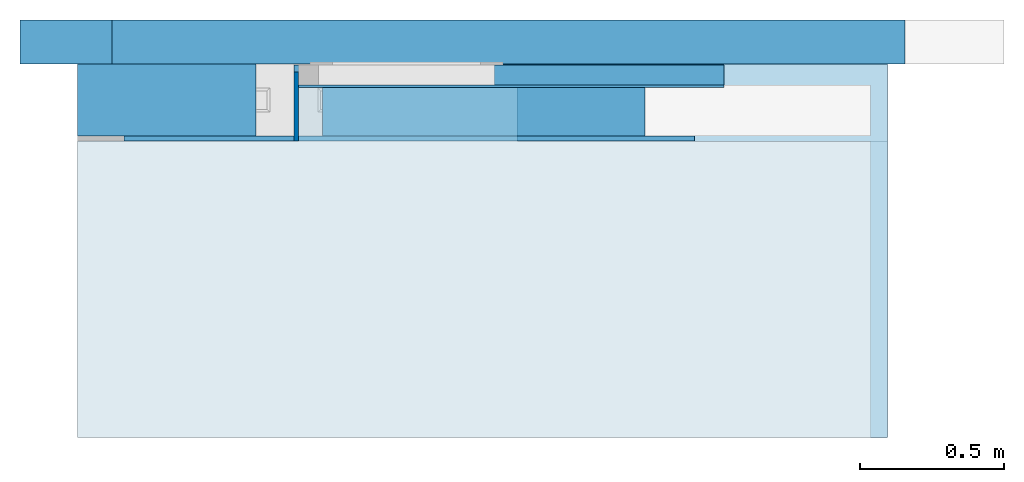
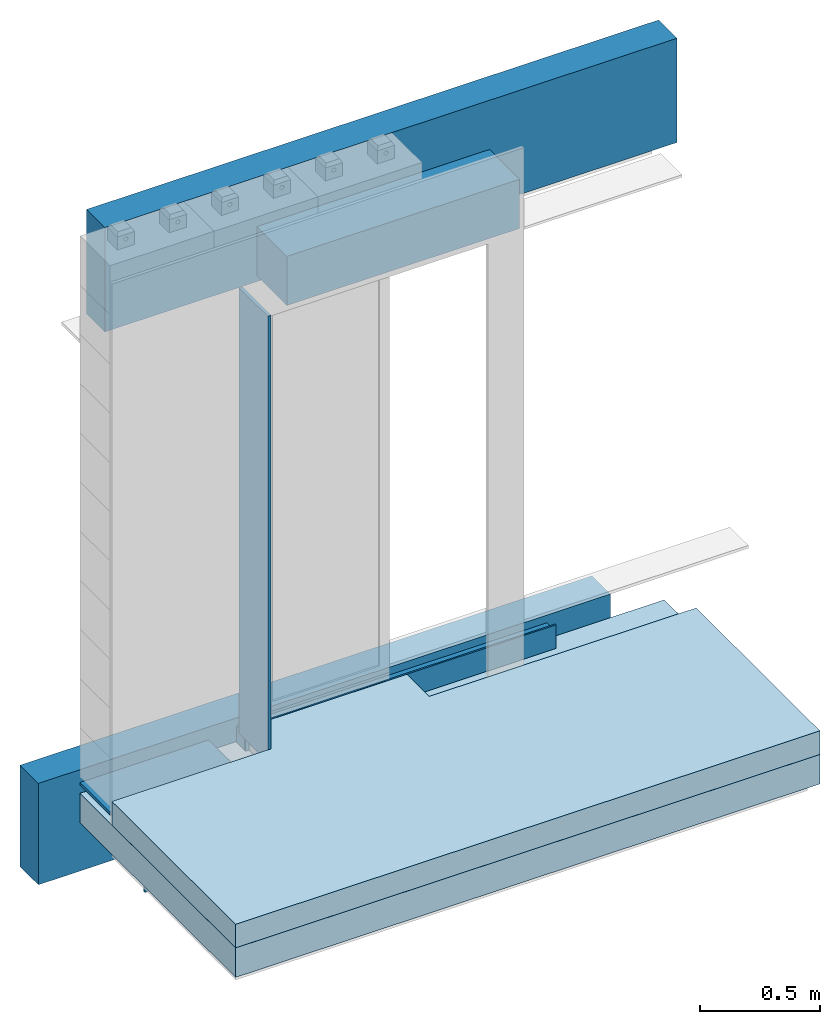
# One storey, part 1 of 3: 6 walls, 2 beams, 2 slabs.
"""IFC4 building model written with IfcOpenShell, lengths in centimetres."""

from ifc_helpers import new_model, entity, si_unit, converted_unit, direction, frame, origin, place, context, subcontext, project, spatial, indexed_curve, outline, extrude, source, transform, mapped, material, constituent, constituent_set, type_object, type_shapes, element, save


model = new_model("IFC4")

# Units and contexts
model_context = context("Model", 3, precision=0.001, world=origin(), true_north=direction((0.0, 1.0)))
body_context = subcontext(model_context, "Body", "Model", "MODEL_VIEW")
ifc_project = project(units=[si_unit("LENGTHUNIT", "METRE", prefix="CENTI"), si_unit("AREAUNIT", "SQUARE_METRE"), si_unit("VOLUMEUNIT", "CUBIC_METRE"), converted_unit("PLANEANGLEUNIT", "DEGREE", entity("IfcPlaneAngleMeasure", 0.017453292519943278), si_unit("PLANEANGLEUNIT", "RADIAN"), dimensions=[0, 0, 0, 0, 0, 0, 0])], contexts=[model_context])

# Site, building, storey
site_placement = place(None, origin())
site = spatial("IfcSite", under=ifc_project, at=site_placement, Name="Default", CompositionType="ELEMENT")
building_placement = place(site_placement, origin())
building = spatial("IfcBuilding", under=site, at=building_placement, CompositionType="ELEMENT")
storey_placement = place(building_placement, frame((0.0, 0.0, -12.0)))
storey = spatial("IfcBuildingStorey", under=building, at=storey_placement, Name="L00__ABOVE Slab", CompositionType="ELEMENT", Elevation=-12.000000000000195)

# Beams
ifc_material_1 = material(Name="_STRUCTURE__Wood")
beam_type_1 = type_object("IfcBeamType", Name="Structural Framing : sfr__WOOD__Rectangular__sf : 15 x 1cm", PredefinedType="BEAM", material=ifc_material_1)
shared_shape_1 = source(origin(), body_context, "Body", "SweptSolid", [
    extrude(outline(indexed_curve([(-30.949999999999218, -12.500000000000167), (30.949999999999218, -12.500000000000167), (30.949999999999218, 12.500000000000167), (-30.949999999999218, 12.500000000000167), (-30.949999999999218, -12.500000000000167)], self_intersect=False)), frame((-6.550000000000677, 0.0, -0.7500000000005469), z_axis=(0.0, 0.0, 1.0), x_axis=(-1.0, 0.0, 0.0)), (0.0, 0.0, 1.0), 1.4999999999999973),
])
type_shapes(beam_type_1, [shared_shape_1])
beam_1_placement = place(storey_placement, frame((2793.149456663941, 823.749139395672, 9.25), z_axis=(0.0, 0.0, 1.0), x_axis=(-1.0, 0.0, 0.0)))
element("IfcBeam", 1, at=beam_1_placement, inside=storey, type_object=beam_type_1, material=ifc_material_1, Name="Structural Framing : sfr__WOOD__Rectangular__sf : 15 x 1cm", PredefinedType="BEAM", context=body_context, shape_type="MappedRepresentation", body=[
    mapped(shared_shape_1, transform((0.0, 0.0, 0.0), scale=1.0)),
])
ifc_material_2 = material(Name="_MASONRY__Timber Block__Triqbriq, Filler", Category="Miscellaneous")
beam_type_2 = type_object("IfcBeamType", Name="Structural Framing : sfr__WOOD__Rectangular__sf : 15 x 25cm", PredefinedType="BEAM", material=ifc_material_2)
shared_shape_2 = source(origin(), body_context, "Body", "SweptSolid", [
    extrude(outline(indexed_curve([(-55.949999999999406, -12.500000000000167), (55.949999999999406, -12.500000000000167), (55.949999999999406, 12.500000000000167), (-55.949999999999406, 12.500000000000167), (-55.949999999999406, -12.500000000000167)], self_intersect=False)), frame((19.050000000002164, 0.0, -12.500000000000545), z_axis=(0.0, 0.0, 1.0), x_axis=(-1.0, 0.0, 0.0)), (0.0, 0.0, 1.0), 24.999999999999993),
])
type_shapes(beam_type_2, [shared_shape_2])
beam_2_placement = place(storey_placement, frame((2890.6494566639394, 823.7491393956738, 250.30000000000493)))
element("IfcBeam", 2, at=beam_2_placement, inside=storey, type_object=beam_type_2, material=ifc_material_2, Name="Structural Framing : sfr__WOOD__Rectangular__sf : 15 x 25cm", PredefinedType="BEAM", context=body_context, shape_type="MappedRepresentation", body=[
    mapped(shared_shape_2, transform((0.0, 0.0, 0.0), scale=1.0)),
])

# Slabs
slab_type_1 = type_object("IfcSlabType", Name="Floors : Floor : flr__STRUCTURE__Wood Beams 15cm__TriqBriq", PredefinedType="FLOOR", material=ifc_material_1)
slab_1_placement = place(storey_placement, origin())
element("IfcSlab", 3, at=slab_1_placement, inside=storey, type_object=slab_type_1, material=ifc_material_1, Name="Floors : Floor : flr__STRUCTURE__Wood Beams 15cm__TriqBriq", PredefinedType="FLOOR", context=body_context, shape_type="SweptSolid", body=[
    extrude(outline(indexed_curve([(-64.80000000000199, -140.44999999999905), (64.80000000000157, -140.44999999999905), (64.80000000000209, 140.4499999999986), (-64.80000000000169, 140.44999999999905), (-64.80000000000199, -140.44999999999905)], self_intersect=False)), frame((2909.199456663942, 771.4491393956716, 4.500000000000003), z_axis=(0.0, 0.0, -1.0), x_axis=(0.0, 1.0, 0.0)), (0.0, 0.0, 1.0), 15.0),
])
ifc_material_3 = material(Name="_FINISH STAIR__Int__Parquet Flooring__Stairs", Category="Unassigned")
ifc_constituent_1 = constituent(ifc_material_3, Name="_FINISH STAIR__Int__Parquet Flooring__Stairs", Category="Unassigned", fraction=0.08333333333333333)
ifc_material_4 = material(Name="_FLR LAYERS__Screed, SL 0.5%__Semi-dry CEM, Rc ≥ 22.5 N/mm²", Category="Concrete")
ifc_constituent_2 = constituent(ifc_material_4, Name="_FLR LAYERS__Screed, SL 0.5%__Semi-dry CEM, Rc ≥ 22.5 N/mm²", Category="Concrete", fraction=0.2916666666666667)
ifc_material_5 = material(Name="_FLR COVERING__Polished Concrete", Category="Concrete")
ifc_constituent_3 = constituent(ifc_material_5, Name="_FLR COVERING__Polished Concrete", Category="Concrete", fraction=0.5833333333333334)
ifc_material_6 = material(Name="_FCD VENT LAYERS__Support Board__OSB 3", Category="Ceramic")
ifc_constituent_4 = constituent(ifc_material_6, Name="_FCD VENT LAYERS__Support Board__OSB 3", Category="Ceramic", fraction=0.041666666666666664)
ifc_constituent_set_1 = constituent_set(constituents=[ifc_constituent_1, ifc_constituent_2, ifc_constituent_3, ifc_constituent_4], Name="Floor:flr__INT COVERING__Parquet")
slab_type_2 = type_object("IfcSlabType", Name="Floors : Floor : flr__INT COVERING__Parquet", PredefinedType="FLOOR", material=ifc_constituent_set_1)
slab_2_placement = place(storey_placement, origin())
element("IfcSlab", 4, at=slab_2_placement, inside=storey, type_object=slab_type_2, material=ifc_constituent_set_1, Name="Floors : Floor : flr__INT COVERING__Parquet", PredefinedType="FLOOR", context=body_context, shape_type="SweptSolid", body=[
    extrude(outline(indexed_curve([(21.112548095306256, -25.07500000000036), (39.662355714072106, -25.07500000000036), (39.662355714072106, 50.924999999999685), (21.11254809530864, 50.924999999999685), (21.11254809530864, 127.52499999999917), (-81.88745190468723, 127.52499999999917), (-81.88745190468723, -153.37499999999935), (21.112548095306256, -153.37499999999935), (21.112548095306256, -25.07500000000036)], self_intersect=False)), frame((2896.2744566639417, 788.5365913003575, 15.500000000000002), z_axis=(0.0, 0.0, 1.0), x_axis=(0.0, 1.0, 0.0)), (0.0, 0.0, 1.0), 1.0000000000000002),
    extrude(outline(indexed_curve([(21.112548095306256, -25.07500000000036), (39.662355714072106, -25.07500000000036), (39.662355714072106, 50.924999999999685), (21.11254809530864, 50.924999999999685), (21.11254809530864, 127.52499999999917), (-81.88745190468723, 127.52499999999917), (-81.88745190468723, -153.37499999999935), (21.112548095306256, -153.37499999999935), (21.112548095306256, -25.07500000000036)], self_intersect=False)), frame((2896.2744566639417, 788.5365913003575, 12.0), z_axis=(0.0, 0.0, 1.0), x_axis=(0.0, 1.0, 0.0)), (0.0, 0.0, 1.0), 3.4999999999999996),
    extrude(outline(indexed_curve([(21.112548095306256, -25.07500000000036), (39.662355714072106, -25.07500000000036), (39.662355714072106, 50.924999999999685), (21.11254809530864, 50.924999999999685), (21.11254809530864, 127.52499999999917), (-81.88745190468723, 127.52499999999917), (-81.88745190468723, -153.37499999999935), (21.112548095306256, -153.37499999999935), (21.112548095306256, -25.07500000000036)], self_intersect=False)), frame((2896.2744566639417, 788.5365913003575, 5.0), z_axis=(0.0, 0.0, 1.0), x_axis=(0.0, 1.0, 0.0)), (0.0, 0.0, 1.0), 7.0),
    extrude(outline(indexed_curve([(-21.112548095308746, -127.5249999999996), (81.88745190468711, -127.5249999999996), (81.88745190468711, 153.37499999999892), (-21.112548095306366, 153.37499999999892), (-21.112548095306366, 25.07499999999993), (-39.66235571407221, 25.07499999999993), (-39.66235571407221, -50.92500000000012), (-21.112548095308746, -50.92500000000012), (-21.112548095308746, -127.5249999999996)], self_intersect=False)), frame((2896.274456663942, 788.5365913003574, 4.5000000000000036), z_axis=(0.0, 0.0, 1.0), x_axis=(0.0, -1.0, 0.0)), (0.0, 0.0, 1.0), 0.49999999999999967),
])

# Walls
ifc_material_7 = material(Name="_FCD FINISH__Mineral Render__Combed, H L/O__Capatect Kreativeffekt \"Filigrano\"__White", Category="Concrete")
ifc_constituent_5 = constituent(ifc_material_7, Name="_FCD FINISH__Mineral Render__Combed, H L/O__Capatect Kreativeffekt \"Filigrano\"__White", Category="Concrete", fraction=0.0196078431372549)
ifc_material_8 = material(Name="_STRUCTURE__Wood Solid")
ifc_constituent_6 = constituent(ifc_material_8, Name="_STRUCTURE__Wood Solid", fraction=0.06535947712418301)
ifc_material_9 = material(Name="_FCD LAYERS__Insulation__Wood-fiber__Steico", Category="Unassigned")
ifc_constituent_7 = constituent(ifc_material_9, Name="_FCD LAYERS__Insulation__Wood-fiber__Steico", Category="Unassigned", fraction=0.9150326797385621)
ifc_constituent_set_2 = constituent_set(constituents=[ifc_constituent_5, ifc_constituent_6, ifc_constituent_7], Name="Basic Wall:wll__EXT ENCLOSURE__Spritzkork, Wood Insulation 8.4cm__TriqBriq, FS.1")
wall_type_1 = type_object("IfcWallType", Name="Walls : Basic Wall : wll__EXT ENCLOSURE__Spritzkork, Wood Insulation 8.4cm__TriqBriq, FS.1", PredefinedType="STANDARD", material=ifc_constituent_set_2)
wall_1_placement = place(storey_placement, frame((2780.749456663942, 843.8991393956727, 234.80000000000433)))
element("IfcWall", 5, at=wall_1_placement, inside=storey, type_object=wall_type_1, material=ifc_constituent_set_2, Name="Walls : Basic Wall : wll__EXT ENCLOSURE__Spritzkork, Wood Insulation 8.4cm__TriqBriq, FS.1", PredefinedType="NOTDEFINED", context=body_context, shape_type="SweptSolid", body=[
    extrude(outline(indexed_curve([(-0.14999999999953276, -137.50000000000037), (0.15000000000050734, -137.50000000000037), (0.14999999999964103, 137.49999999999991), (-0.15000000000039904, 137.49999999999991), (-0.14999999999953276, -137.50000000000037)], self_intersect=False)), frame((137.50000000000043, 7.5000000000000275, 0.0), z_axis=(0.0, 0.0, 1.0), x_axis=(0.0, -1.0, 0.0)), (0.0, 0.0, 1.0), 53.00000000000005),
    extrude(outline(indexed_curve([(-6.999999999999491, -137.50000000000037), (7.000000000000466, -137.50000000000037), (6.999999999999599, 137.49999999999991), (-7.000000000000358, 137.49999999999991), (-6.999999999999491, -137.50000000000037)], self_intersect=False)), frame((137.49999999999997, -0.6500000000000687, 0.0), z_axis=(0.0, 0.0, 1.0), x_axis=(0.0, 1.0, 0.0)), (0.0, 0.0, 1.0), 53.00000000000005),
    extrude(outline(indexed_curve([(-137.49999999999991, -0.4999999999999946), (137.50000000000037, -0.4999999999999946), (137.50000000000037, 0.4999999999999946), (-137.49999999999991, 0.4999999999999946), (-137.49999999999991, -0.4999999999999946)], self_intersect=False)), frame((137.5, 6.849999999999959, 0.0)), (0.0, 0.0, 1.0), 53.00000000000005),
])
wall_2_placement = place(storey_placement, frame((2748.749456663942, 843.8991393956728, -35.022325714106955)))
element("IfcWall", 6, at=wall_2_placement, inside=storey, type_object=wall_type_1, material=ifc_constituent_set_2, Name="Walls : Basic Wall : wll__EXT ENCLOSURE__Spritzkork, Wood Insulation 8.4cm__TriqBriq, FS.1", PredefinedType="NOTDEFINED", context=body_context, shape_type="SweptSolid", body=[
    extrude(outline(indexed_curve([(-0.14999999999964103, -137.50000000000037), (0.15000000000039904, -137.50000000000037), (0.14999999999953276, 137.49999999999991), (-0.15000000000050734, 137.49999999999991), (-0.14999999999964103, -137.50000000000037)], self_intersect=False)), frame((137.50000000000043, 7.499999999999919, 0.0), z_axis=(0.0, 0.0, 1.0), x_axis=(0.0, -1.0, 0.0)), (0.0, 0.0, 1.0), 51.52232571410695),
    extrude(outline(indexed_curve([(-6.999999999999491, -137.50000000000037), (7.000000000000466, -137.50000000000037), (6.999999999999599, 137.49999999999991), (-7.000000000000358, 137.49999999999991), (-6.999999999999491, -137.50000000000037)], self_intersect=False)), frame((137.49999999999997, -0.6500000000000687, 0.0), z_axis=(0.0, 0.0, 1.0), x_axis=(0.0, 1.0, 0.0)), (0.0, 0.0, 1.0), 51.52232571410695),
    extrude(outline(indexed_curve([(-137.50000000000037, -0.4999999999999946), (137.49999999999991, -0.4999999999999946), (137.49999999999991, 0.4999999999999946), (-137.50000000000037, 0.4999999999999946), (-137.50000000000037, -0.4999999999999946)], self_intersect=False)), frame((137.50000000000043, 6.849999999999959, 0.0)), (0.0, 0.0, 1.0), 51.52232571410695),
])
ifc_material_10 = material(Name="_WLL & CLG FINISHES__Lime - CEM Plaster", Category="Unassigned")
ifc_constituent_8 = constituent(ifc_material_10, Name="_WLL & CLG FINISHES__Lime - CEM Plaster", Category="Unassigned", fraction=0.37499999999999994)
ifc_material_11 = material(Name="_FCD LAYERS__Insulation__EPS 120__Austrotherm EPS A120")
ifc_constituent_9 = constituent(ifc_material_11, Name="_FCD LAYERS__Insulation__EPS 120__Austrotherm EPS A120", fraction=0.625)
ifc_constituent_set_3 = constituent_set(constituents=[ifc_constituent_8, ifc_constituent_9], Name="Basic Wall:wll__INT FINISH__Spritzkork, Lime - CEM Plaster 2.4cm TRIQBRIQ")
wall_type_2 = type_object("IfcWallType", Name="Walls : Basic Wall : wll__INT FINISH__Spritzkork, Lime - CEM Plaster 2.4cm TRIQBRIQ", PredefinedType="STANDARD", material=ifc_constituent_set_3)
wall_3_placement = place(storey_placement, frame((2844.5494566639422, 833.5491393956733, 10.300000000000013), z_axis=(0.0, 0.0, 1.0), x_axis=(0.0, -1.0, 0.0)))
element("IfcWall", 7, at=wall_3_placement, inside=storey, type_object=wall_type_2, material=ifc_constituent_set_3, Name="Walls : Basic Wall : wll__INT FINISH__Spritzkork, Lime - CEM Plaster 2.4cm TRIQBRIQ", PredefinedType="NOTDEFINED", context=body_context, shape_type="SweptSolid", body=[
    extrude(outline(indexed_curve([(-0.4999999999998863, -11.950000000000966), (0.4999999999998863, -11.950000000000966), (0.4999999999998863, 11.95000000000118), (-0.4999999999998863, 11.95000000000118), (-0.4999999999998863, -11.950000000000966)], self_intersect=False)), frame((11.950000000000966, 0.29999999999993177, 0.0), z_axis=(0.0, 0.0, 1.0), x_axis=(0.0, -1.0, 0.0)), (0.0, 0.0, 1.0), 226.5000000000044),
    extrude(outline(indexed_curve([(-0.3000000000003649, -11.950000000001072), (0.29999999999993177, -11.950000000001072), (0.29999999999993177, 11.950000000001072), (-0.3000000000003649, 11.950000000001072), (-0.3000000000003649, -11.950000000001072)], self_intersect=False)), frame((11.950000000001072, -0.4999999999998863, 0.0), z_axis=(0.0, 0.0, 1.0), x_axis=(0.0, 1.0, 0.0)), (0.0, 0.0, 1.0), 226.5000000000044),
])
wall_4_placement = place(storey_placement, frame((2784.7494566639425, 810.4491393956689, -35.50000000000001)))
element("IfcWall", 8, at=wall_4_placement, inside=storey, type_object=wall_type_2, material=ifc_constituent_set_3, Name="Walls : Basic Wall : wll__INT FINISH__Spritzkork, Lime - CEM Plaster 2.4cm TRIQBRIQ", PredefinedType="NOTDEFINED", context=body_context, shape_type="SweptSolid", body=[
    extrude(outline(indexed_curve([(-0.49999999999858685, -99.00000000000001), (0.5000000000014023, -99.00000000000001), (0.49999999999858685, 99.00000000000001), (-0.5000000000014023, 99.00000000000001), (-0.49999999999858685, -99.00000000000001)], self_intersect=False)), frame((99.0, 0.30000000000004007, 0.0), z_axis=(0.0, 0.0, 1.0), x_axis=(0.0, -1.0, 0.0)), (0.0, 0.0, 1.0), 25.000000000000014),
    extrude(outline(indexed_curve([(-0.29999999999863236, -99.00000000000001), (0.30000000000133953, -99.00000000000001), (0.29999999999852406, 99.00000000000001), (-0.30000000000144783, 99.00000000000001), (-0.29999999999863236, -99.00000000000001)], self_intersect=False)), frame((99.0, -0.4999999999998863, 0.0), z_axis=(0.0, 0.0, 1.0), x_axis=(0.0, 1.0, 0.0)), (0.0, 0.0, 1.0), 25.000000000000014),
])
ifc_constituent_10 = constituent(ifc_material_10, Name="_WLL & CLG FINISHES__Lime - CEM Plaster", Category="Unassigned", fraction=1.0)
ifc_constituent_set_4 = constituent_set(constituents=[ifc_constituent_10], Name="Basic Wall:wll__INT FINISH__Lime - CEM Plaster 4cm 3")
wall_type_3 = type_object("IfcWallType", Name="Walls : Basic Wall : wll__INT FINISH__Lime - CEM Plaster 4cm 3", PredefinedType="STANDARD", material=ifc_constituent_set_4)
wall_5_placement = place(storey_placement, frame((2843.7494566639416, 832.4989470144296, 4.500000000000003)))
element("IfcWall", 9, at=wall_5_placement, inside=storey, type_object=wall_type_3, material=ifc_constituent_set_4, Name="Walls : Basic Wall : wll__INT FINISH__Lime - CEM Plaster 4cm 3", PredefinedType="NOTDEFINED", context=body_context, shape_type="SweptSolid", body=[
    extrude(outline(indexed_curve([(149.299999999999, 3.4999999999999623), (-5.0770729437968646e-15, 3.4999999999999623), (5.0770729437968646e-15, -3.4999999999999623), (149.299999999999, -3.4999999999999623), (149.299999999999, 3.4999999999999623)], self_intersect=False)), origin(), (0.0, 0.0, 1.0), 8.300000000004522),
])
ifc_constituent_11 = constituent(ifc_material_11, Name="_FCD LAYERS__Insulation__EPS 120__Austrotherm EPS A120", fraction=1.0)
ifc_constituent_set_5 = constituent_set(constituents=[ifc_constituent_11], Name="Basic Wall:wll__UNCLASSIFIED__Randdämmstreifen 1.5cm")
wall_type_4 = type_object("IfcWallType", Name="Walls : Basic Wall : wll__UNCLASSIFIED__Randdämmstreifen 1.5cm", PredefinedType="STANDARD", material=ifc_constituent_set_5)
wall_6_placement = place(storey_placement, frame((2843.7494566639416, 828.5989470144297, 4.500000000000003)))
element("IfcWall", 10, at=wall_6_placement, inside=storey, type_object=wall_type_4, material=ifc_constituent_set_5, Name="Walls : Basic Wall : wll__UNCLASSIFIED__Randdämmstreifen 1.5cm", PredefinedType="NOTDEFINED", context=body_context, shape_type="SweptSolid", body=[
    extrude(outline(indexed_curve([(149.299999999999, 0.40000000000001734), (-5.802369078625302e-16, 0.40000000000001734), (5.802369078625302e-16, -0.40000000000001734), (149.299999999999, -0.40000000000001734), (149.299999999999, 0.40000000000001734)], self_intersect=False)), origin(), (0.0, 0.0, 1.0), 12.0),
])

save(model, "model.ifc")
